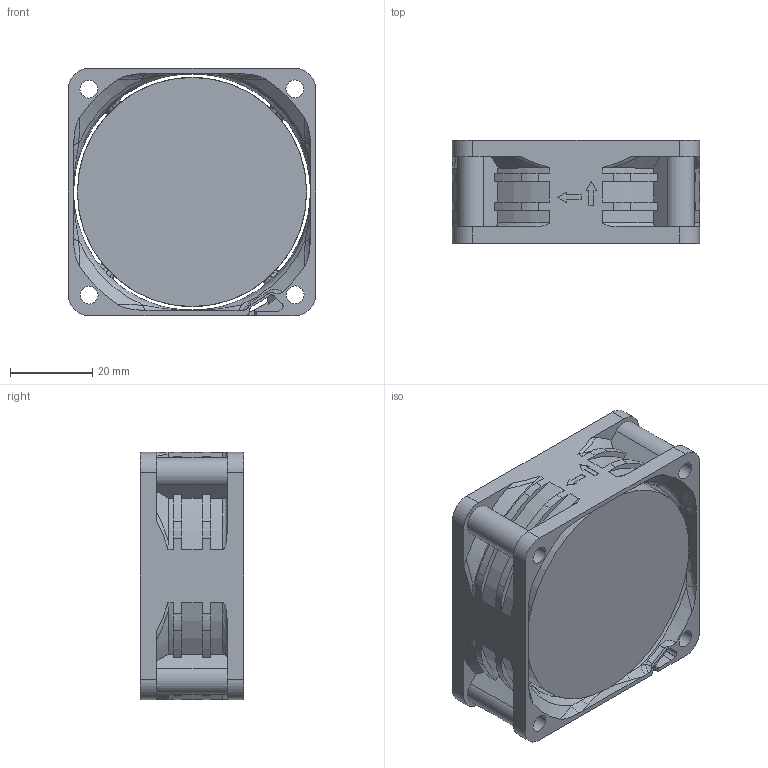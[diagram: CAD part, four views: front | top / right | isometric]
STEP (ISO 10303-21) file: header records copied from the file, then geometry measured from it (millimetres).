
FILE_DESCRIPTION (( 'STEP AP203' ), '1' );
FILE_NAME ('6025D-V.STEP', '2025-09-16T03:21:54', ( '' ), ( '' ), 'SwSTEP 2.0', 'SolidWorks 2024', '' );
FILE_SCHEMA (( 'CONFIG_CONTROL_DESIGN' ));
Length unit declared in the file: millimetre
Products named in the file (1): 6025D-V
Bounding box: 60 x 25 x 60 mm (x, y, z)
Volume: 71868.3 mm3; surface area: 23576.6 mm2
Topology: 1 solids, 1 shells, 360 faces, 1021 edges, 660 vertices
Faces by surface type: cylinder 108, plane 107, bspline 87, torus 27, cone 24, sphere 7
Entity records: 14967 total; most frequent: CARTESIAN_POINT 6142, ORIENTED_EDGE 2040, DIRECTION 1628, EDGE_CURVE 1020, VERTEX_POINT 660, AXIS2_PLACEMENT_3D 631, EDGE_LOOP 374, LINE 366
